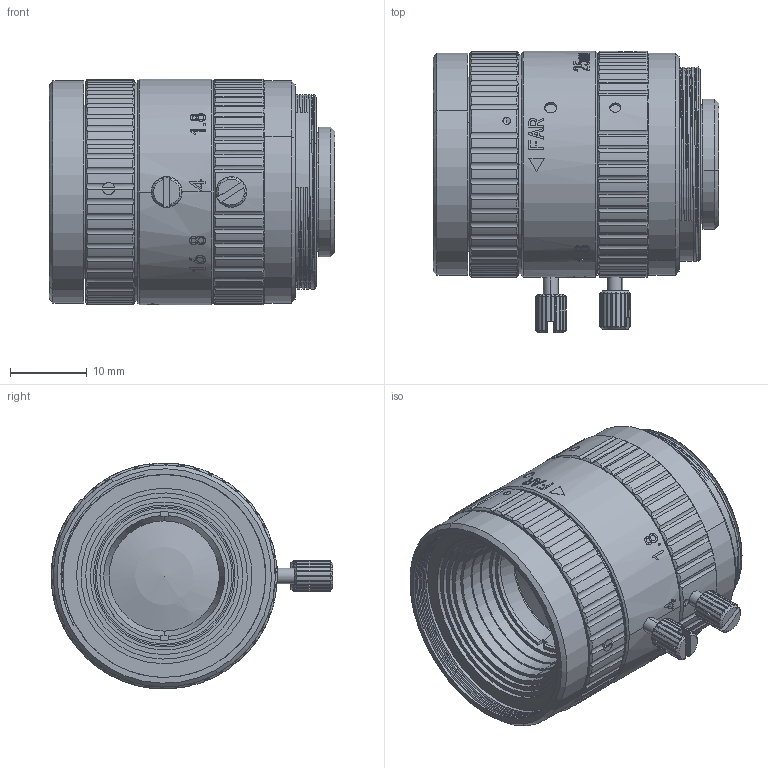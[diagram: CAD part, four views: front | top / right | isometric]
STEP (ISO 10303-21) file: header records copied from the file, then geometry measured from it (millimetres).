
FILE_DESCRIPTION (( 'STEP AP203' ), '1' );
FILE_NAME ('FAU2518MC.HR-H-无穷远.STEP', '2025-11-04T02:45:42', ( '' ), ( '' ), 'SwSTEP 2.0', 'SolidWorks 2019', '' );
FILE_SCHEMA (( 'CONFIG_CONTROL_DESIGN' ));
Length unit declared in the file: millimetre
Products named in the file (1): FAU2518MC.HR-H-无穷远
Bounding box: 37.31 x 36.75 x 29.5 mm (x, y, z)
Volume: 19587.3 mm3; surface area: 7764 mm2
Topology: 6 solids, 8 shells, 969 faces, 2592 edges, 1703 vertices
Faces by surface type: cylinder 412, plane 368, bspline 124, cone 60, sphere 5
Entity records: 47300 total; most frequent: CARTESIAN_POINT 24830, ORIENTED_EDGE 5160, DIRECTION 3935, EDGE_CURVE 2580, VERTEX_POINT 1700, AXIS2_PLACEMENT_3D 1499, EDGE_LOOP 1050, FACE_OUTER_BOUND 969
